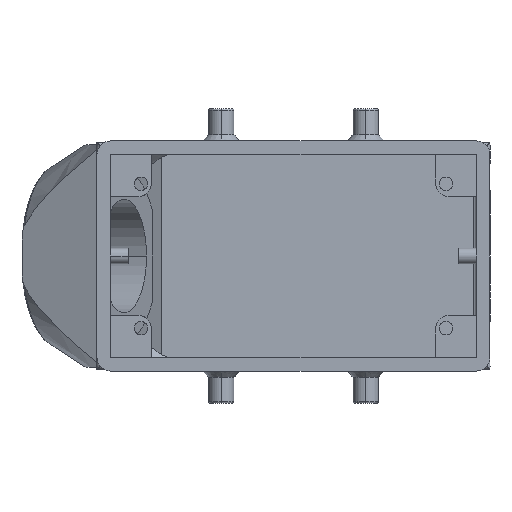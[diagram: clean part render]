
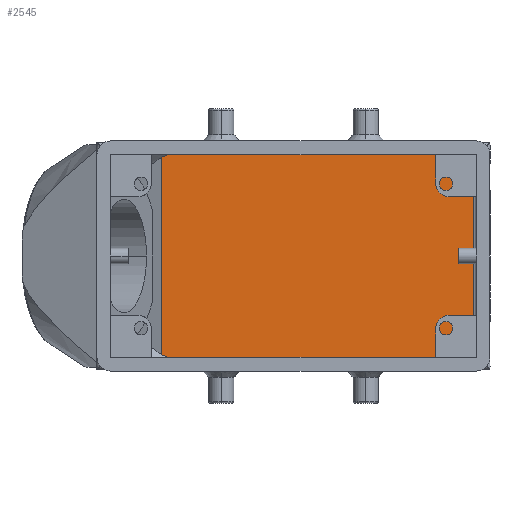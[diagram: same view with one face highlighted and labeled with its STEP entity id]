
A CAD part, front view. The second image highlights one B-rep face of the part: STEP entity #2545.
In plain terms, the highlighted planar face has unit normal (0, -1, 0).
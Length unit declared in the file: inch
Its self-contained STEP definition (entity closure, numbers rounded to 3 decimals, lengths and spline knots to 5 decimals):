
#26 = DIRECTION ( 'NONE',  ( 1., 0., 0. ) ) ;
#27 = DIRECTION ( 'NONE',  ( 0., -1., 0. ) ) ;
#28 = CARTESIAN_POINT ( 'NONE',  ( 1.321, 1.95, 0.84645 ) ) ;
#75 = DIRECTION ( 'NONE',  ( -1., 0., 0. ) ) ;
#76 = VECTOR ( 'NONE', #75, 39.37008 ) ;
#77 = CARTESIAN_POINT ( 'NONE',  ( 1.321, 1.95, 0.74645 ) ) ;
#78 = LINE ( 'NONE', #77, #76 ) ;
#175 = CARTESIAN_POINT ( 'NONE',  ( -0.97449, 1.95, 0.72623 ) ) ;
#207 = CARTESIAN_POINT ( 'NONE',  ( -0.91987, 1.95, 0.74645 ) ) ;
#211 = CARTESIAN_POINT ( 'NONE',  ( -0.91987, 1.95, 0.74645 ) ) ;
#212 = CARTESIAN_POINT ( 'NONE',  ( -0.93808, 1.95, 0.73971 ) ) ;
#213 = CARTESIAN_POINT ( 'NONE',  ( -0.95629, 1.95, 0.73297 ) ) ;
#214 = CARTESIAN_POINT ( 'NONE',  ( -0.97449, 1.95, 0.72623 ) ) ;
#216 = B_SPLINE_CURVE_WITH_KNOTS ( 'NONE', 3,
 ( #214, #213, #212, #211 ),
 .UNSPECIFIED., .F., .F.,
 ( 4, 4 ),
 ( 0., 0.00148 ),
 .UNSPECIFIED. ) ;
#2461 = ORIENTED_EDGE ( 'NONE', *, *, #2464, .F. ) ;
#2464 = EDGE_CURVE ( 'NONE', #2493, #2472, #6006, .T. ) ;
#2465 = ORIENTED_EDGE ( 'NONE', *, *, #2542, .F. ) ;
#2467 = ORIENTED_EDGE ( 'NONE', *, *, #2593, .T. ) ;
#2472 = VERTEX_POINT ( 'NONE', #6048 ) ;
#2477 = EDGE_CURVE ( 'NONE', #2478, #2472, #6037, .T. ) ;
#2478 = VERTEX_POINT ( 'NONE', #6036 ) ;
#2493 = VERTEX_POINT ( 'NONE', #6054 ) ;
#2504 = ORIENTED_EDGE ( 'NONE', *, *, #2665, .F. ) ;
#2507 = ORIENTED_EDGE ( 'NONE', *, *, #2509, .F. ) ;
#2509 = EDGE_CURVE ( 'NONE', #2478, #2660, #6144, .T. ) ;
#2512 = ORIENTED_EDGE ( 'NONE', *, *, #2477, .T. ) ;
#2538 = VERTEX_POINT ( 'NONE', #6160 ) ;
#2542 = EDGE_CURVE ( 'NONE', #2538, #2493, #6158, .T. ) ;
#2545 = ADVANCED_FACE ( 'NONE', ( #6149 ), #5678, .T. ) ;
#2546 = EDGE_LOOP ( 'NONE', ( #2461, #2465, #2467, #2504, #2507, #2512 ) ) ;
#2593 = EDGE_CURVE ( 'NONE', #2538, #2667, #78, .T. ) ;
#2660 = VERTEX_POINT ( 'NONE', #175 ) ;
#2665 = EDGE_CURVE ( 'NONE', #2660, #2667, #216, .T. ) ;
#2667 = VERTEX_POINT ( 'NONE', #207 ) ;
#5678 = PLANE ( 'NONE',  #5680 ) ;
#5680 = AXIS2_PLACEMENT_3D ( 'NONE', #28, #27, #26 ) ;
#6003 = DIRECTION ( 'NONE',  ( -1., 0., 0. ) ) ;
#6004 = VECTOR ( 'NONE', #6003, 39.37008 ) ;
#6005 = CARTESIAN_POINT ( 'NONE',  ( 1.321, 1.95, -0.74645 ) ) ;
#6006 = LINE ( 'NONE', #6005, #6004 ) ;
#6032 = CARTESIAN_POINT ( 'NONE',  ( -0.91987, 1.95, -0.74645 ) ) ;
#6033 = CARTESIAN_POINT ( 'NONE',  ( -0.93808, 1.95, -0.73971 ) ) ;
#6034 = CARTESIAN_POINT ( 'NONE',  ( -0.95629, 1.95, -0.73297 ) ) ;
#6035 = CARTESIAN_POINT ( 'NONE',  ( -0.97449, 1.95, -0.72623 ) ) ;
#6036 = CARTESIAN_POINT ( 'NONE',  ( -0.97449, 1.95, -0.72623 ) ) ;
#6037 = B_SPLINE_CURVE_WITH_KNOTS ( 'NONE', 3,
 ( #6035, #6034, #6033, #6032 ),
 .UNSPECIFIED., .F., .F.,
 ( 4, 4 ),
 ( 0., 0.00148 ),
 .UNSPECIFIED. ) ;
#6048 = CARTESIAN_POINT ( 'NONE',  ( -0.91987, 1.95, -0.74645 ) ) ;
#6054 = CARTESIAN_POINT ( 'NONE',  ( 1.321, 1.95, -0.74645 ) ) ;
#6141 = DIRECTION ( 'NONE',  ( 0., 0., 1. ) ) ;
#6142 = VECTOR ( 'NONE', #6141, 39.37008 ) ;
#6143 = CARTESIAN_POINT ( 'NONE',  ( -0.97449, 1.95, -0.78029 ) ) ;
#6144 = LINE ( 'NONE', #6143, #6142 ) ;
#6149 = FACE_OUTER_BOUND ( 'NONE', #2546, .T. ) ;
#6155 = DIRECTION ( 'NONE',  ( 0., 0., -1. ) ) ;
#6156 = VECTOR ( 'NONE', #6155, 39.37008 ) ;
#6157 = CARTESIAN_POINT ( 'NONE',  ( 1.321, 1.95, 0.84645 ) ) ;
#6158 = LINE ( 'NONE', #6157, #6156 ) ;
#6160 = CARTESIAN_POINT ( 'NONE',  ( 1.321, 1.95, 0.74645 ) ) ;
